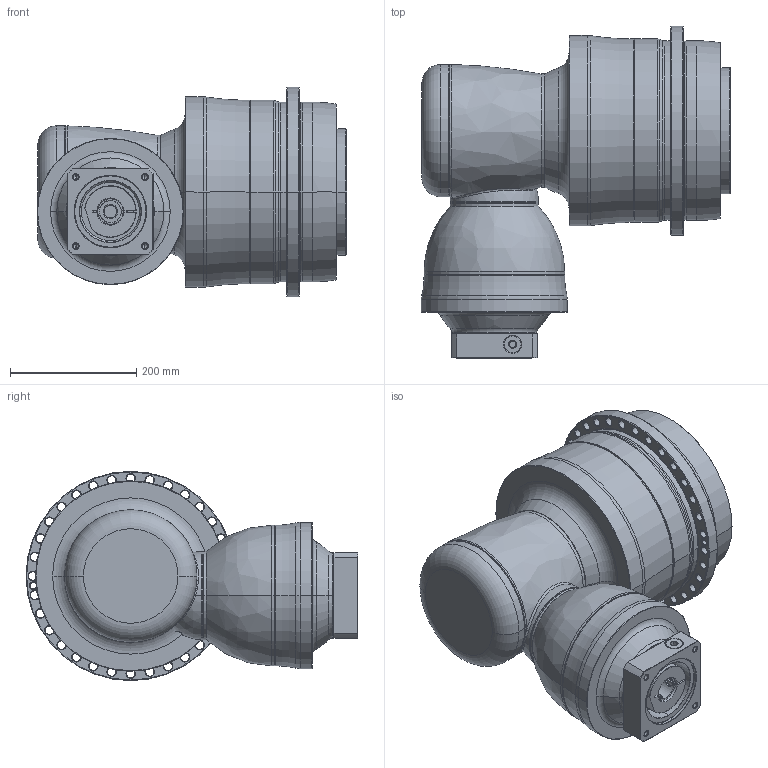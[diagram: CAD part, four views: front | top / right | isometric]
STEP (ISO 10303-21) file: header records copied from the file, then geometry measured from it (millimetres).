
FILE_DESCRIPTION((''),'2;1');
FILE_NAME('APK285_4ST_35-P0409800201_ASM','2018-11-22T',('D00080'),(''),'PRO/ENGINEER BY PARAMETRIC TECHNOLOGY CORPORATION, 2015240','PRO/ENGINEER BY PARAMETRIC TECHNOLOGY CORPORATION, 2015240','');
FILE_SCHEMA(('CONFIG_CONTROL_DESIGN'));
Length unit declared in the file: millimetre
Products named in the file (13): P1008600002; P1832810001; P0278801003; P0359801103; P1211800001; P1315600001; P1007601001; P1317610301; P0503800012; P0912503001; P0409800201; 21711422019; APK285_4ST_35-P0409800201_ASM
Assembly tree (12 placements, depth 2):
  APK285_4ST_35-P0409800201_ASM
    P1008600002
    P1832810001
    P0278801003
    P0359801103
    P1211800001
    P1315600001
    P1007601001
    P1317610301
    P0503800012
    P0912503001
    P0409800201
    21711422019
Bounding box: 491 x 526.5 x 332 mm (x, y, z)
Volume: 30727403.8 mm3; surface area: 1732590.2 mm2
Topology: 13 solids, 36 shells, 808 faces, 1831 edges, 1093 vertices
Faces by surface type: cylinder 309, cone 254, plane 122, torus 86, bspline 35, sphere 2
Entity records: 29239 total; most frequent: CARTESIAN_POINT 10416, DIRECTION 4327, ORIENTED_EDGE 3496, AXIS2_PLACEMENT_3D 1849, EDGE_CURVE 1795, VERTEX_POINT 1093, CIRCLE 1039, EDGE_LOOP 972
